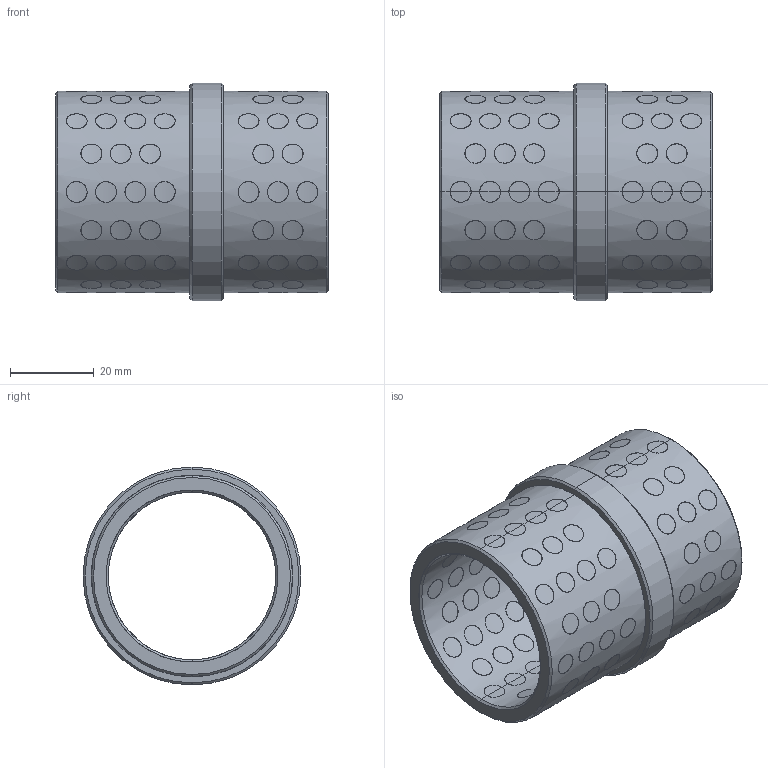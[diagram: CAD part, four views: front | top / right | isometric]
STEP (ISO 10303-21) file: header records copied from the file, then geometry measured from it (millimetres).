
FILE_DESCRIPTION(('CATIA V5 STEP Exchange'),'2;1');
FILE_NAME('C:\Users\Utente\Desktop\3D files G403\G4034065.stp','2020-04-22T08:52:30+00:00',('none'),('none'),'CATIA Version 5 Release 20 GA (IN-10)','CATIA V5 STEP AP203','none');
FILE_SCHEMA(('CONFIG_CONTROL_DESIGN'));
Products named in the file (1): G4034065
Bounding box: 65 x 52 x 52 mm (x, y, z)
Surface area: 31513.3 mm2 (no closed solid volume)
Topology: 0 solids, 628 shells, 628 faces, 2736 edges, 2736 vertices
Faces by surface type: cylinder 612, revolution 12, plane 4
Entity records: 63367 total; most frequent: CARTESIAN_POINT 44454, ORIENTED_EDGE 2736, EDGE_CURVE 2736, VERTEX_POINT 2736, DIRECTION 2211, B_SPLINE_CURVE_WITH_KNOTS 1781, VECTOR 920, LINE 920
